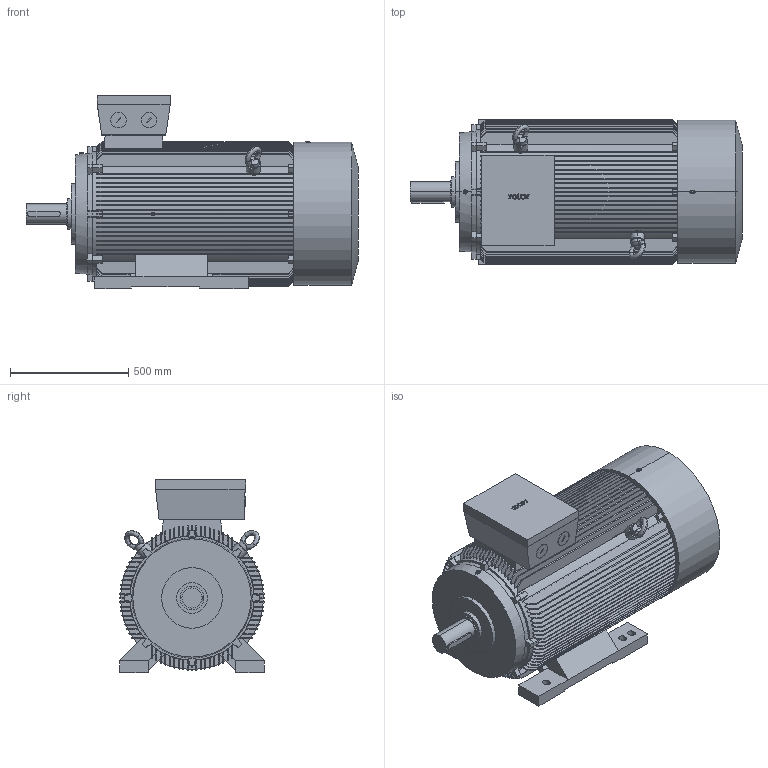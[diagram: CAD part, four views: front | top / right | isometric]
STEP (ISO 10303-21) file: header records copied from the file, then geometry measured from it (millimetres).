
FILE_DESCRIPTION (( 'STEP AP214' ), '1' );
FILE_NAME ('5RN315L04E28.STEP', '2015-12-18T08:26:29', ( 'rbc_ict' ), ( 'Microsoft' ), 'SwSTEP 2.0', 'SolidWorks 2012', '' );
FILE_SCHEMA (( 'AUTOMOTIVE_DESIGN' ));
Length unit declared in the file: millimetre
Products named in the file (1): 5RN315L04E28
Bounding box: 1402 x 610 x 815.5 mm (x, y, z)
Surface area: 8812558.8 mm2 (no closed solid volume)
Topology: 0 solids, 4 shells, 1037 faces, 2965 edges, 1944 vertices
Faces by surface type: plane 549, cylinder 223, cone 187, bspline 78
Entity records: 37309 total; most frequent: CARTESIAN_POINT 10858, ORIENTED_EDGE 5902, DIRECTION 5149, EDGE_CURVE 2953, VERTEX_POINT 1944, AXIS2_PLACEMENT_3D 1793, LINE 1563, VECTOR 1563
